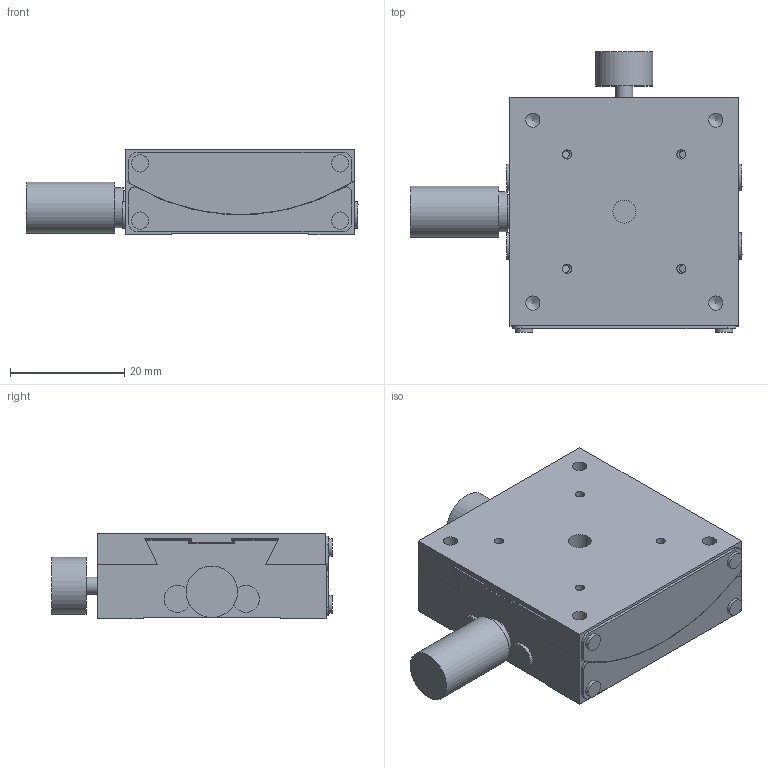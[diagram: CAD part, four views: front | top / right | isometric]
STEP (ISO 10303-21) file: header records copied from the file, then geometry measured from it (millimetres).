
FILE_DESCRIPTION( ( 'STEP AP203' ), '1' );
FILE_NAME( 'C:/Documents and Settings/09371/デスクトップ/CAD-ORG-STEP-DATA-3D簡素化依頼/3D_DATA_STEP/B54-40U2NR.step', '2007-01-30T09:41:09', ( ' ' ), ( ' ' ), 'XStep 1.0', ' ', ' ' );
FILE_SCHEMA( ( 'CONFIG_CONTROL_DESIGN' ) );
Length unit declared in the file: millimetre
Products named in the file (3): 1; 2; 3
Bounding box: 58.1 x 49.1 x 15 mm (x, y, z)
Volume: 24385.2 mm3; surface area: 12917.6 mm2
Topology: 3 solids, 3 shells, 126 faces, 307 edges, 206 vertices
Faces by surface type: cylinder 59, plane 55, cone 12
Full cylindrical faces by diameter (mm): 1.6 x8, 2.5 x8, 3 x5, 3.5 x6, 4 x2, 4.7 x4, 6 x5, 7 x1, 9 x1, 10 x1
Entity records: 3833 total; most frequent: CARTESIAN_POINT 950, DIRECTION 581, ORIENTED_EDGE 480, EDGE_CURVE 240, AXIS2_PLACEMENT_3D 239, EDGE_LOOP 208, VERTEX_POINT 188, FACE_OUTER_BOUND 167
